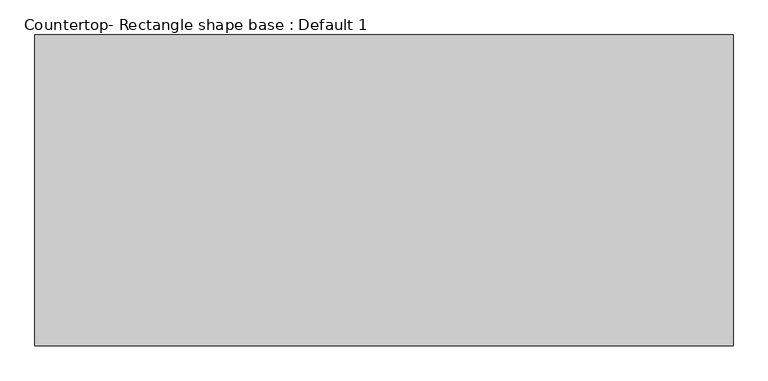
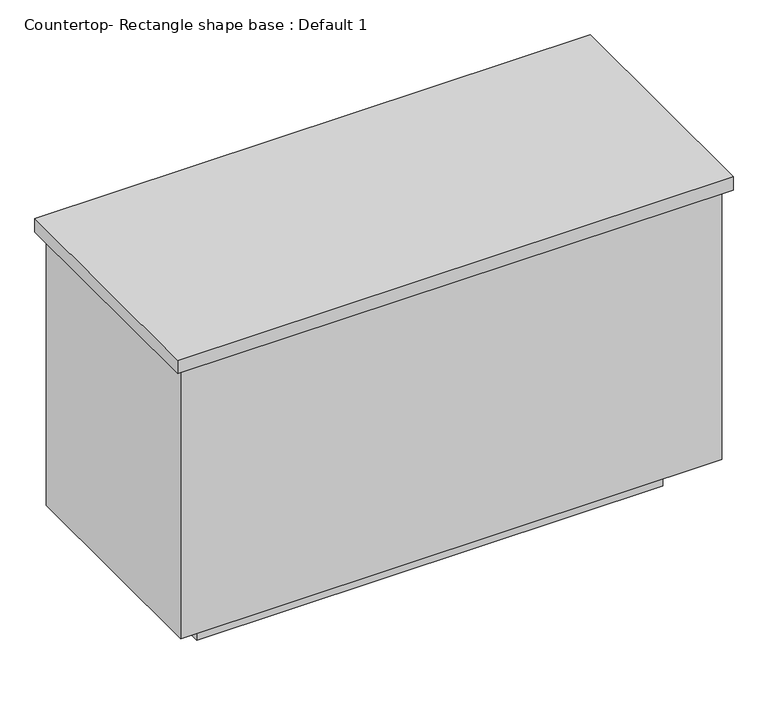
"""IFC4 building model written with IfcOpenShell, lengths in millimetres: proxy geometry, Countertop- Rectangle shape base : Default 1."""

from ifc_helpers import new_model, si_unit, frame, origin, origin_with_axes, place, context, project, spatial, polyline, outline, extrude, source, transform, mapped, element, save


def countertop_rectangle_shape_base_default_1_022ac87b(model_context):
    return source(origin(), model_context, "Body", "SweptSolid", [
        extrude(outline(polyline([(12.7, 47.625), (12.7, 714.375), (1511.3, 714.375), (1511.3, 47.625), (12.7, 47.625)])), frame((0.0, 0.0, 876.3), z_axis=(0.0, 0.0, 1.0), x_axis=(1.0, 0.0, 0.0)), (0.0, 0.0, 1.0), 38.1),
        extrude(outline(polyline([(1492.25, 695.325), (1492.25, 66.675), (31.75, 66.675), (31.75, 695.325), (1492.25, 695.325)])), frame((0.0, 0.0, 101.6), z_axis=(0.0, 0.0, 1.0), x_axis=(1.0, 0.0, 0.0)), (0.0, 0.0, 1.0), 774.7),
        extrude(outline(polyline([(1390.65, 593.725), (1390.65, 168.275), (133.35, 168.275), (133.35, 593.725), (1390.65, 593.725)])), origin_with_axes(), (0.0, 0.0, 1.0), 101.6),
    ])


if __name__ == "__main__":
    model = new_model("IFC4")
    model_context = context("Model", 3, world=origin())
    ifc_project = project(units=[si_unit("LENGTHUNIT", "METRE", prefix="MILLI")], contexts=[model_context])
    site = spatial("IfcSite", under=ifc_project)
    building = spatial("IfcBuilding", under=site)
    placement = place(None, origin())
    countertop_rectangle_shape_base_default_1_shape = countertop_rectangle_shape_base_default_1_022ac87b(model_context)
    element("IfcBuildingElementProxy", 1, Name="Countertop- Rectangle shape base : Default 1", ObjectType="Countertop- Rectangle shape base : Default 1", at=placement, inside=building, context=model_context, shape_type="MappedRepresentation", body=[
        mapped(countertop_rectangle_shape_base_default_1_shape, transform((0.0, 0.0, 0.0), x_axis=(1.0, 0.0, 0.0), y_axis=(0.0, 1.0, 0.0), z_axis=(0.0, 0.0, 1.0))),
    ])
    save(model, "model.ifc")
